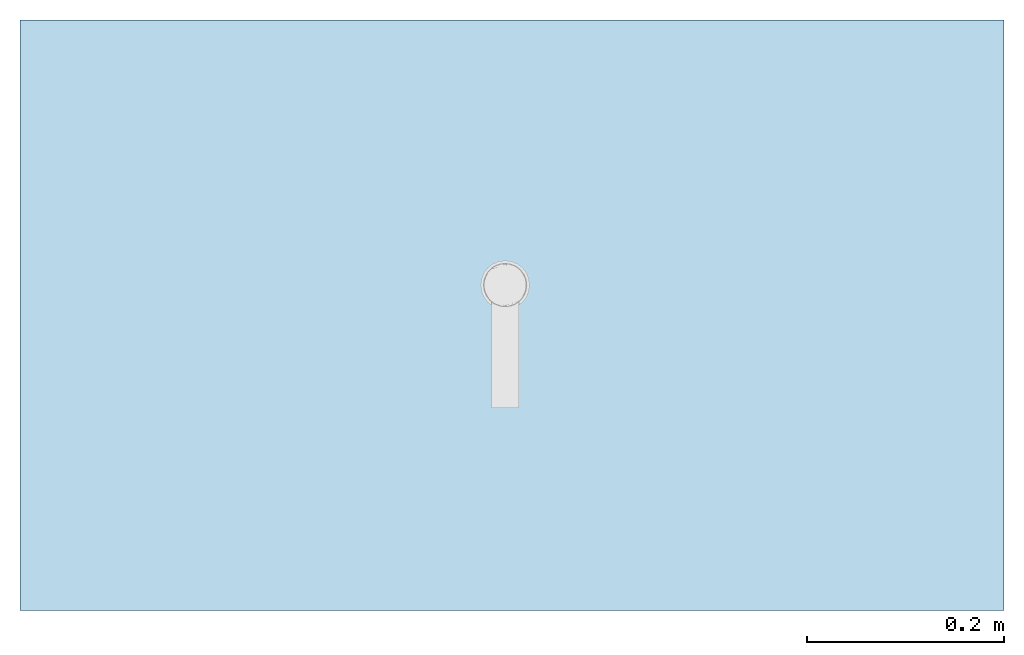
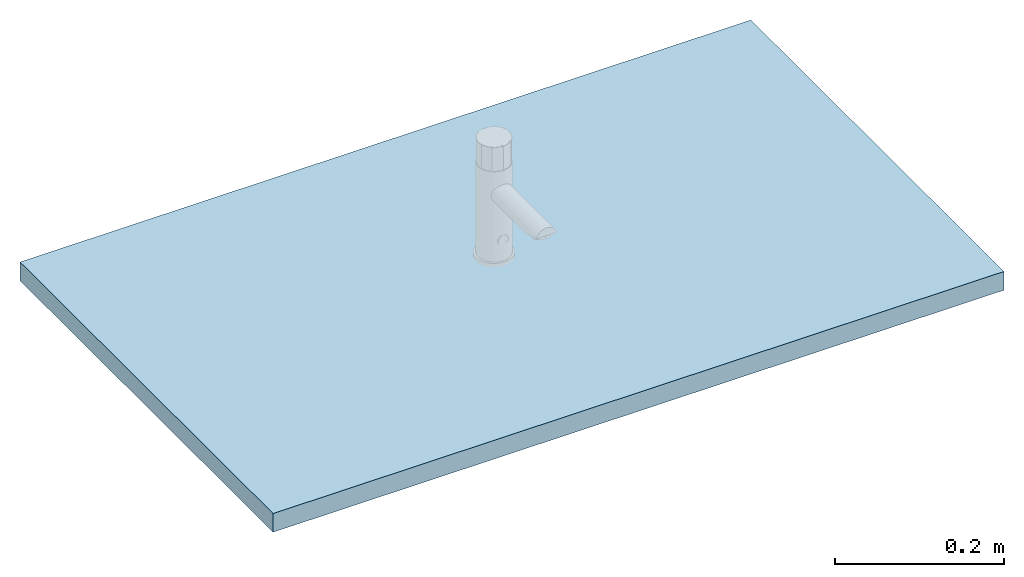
# One storey, incomplete: 1 slab.
"""IFC2X3 building model written with IfcOpenShell, lengths in millimetres."""

from ifc_helpers import new_model, entity, si_unit, converted_unit, derived_unit, direction, frame, frame_2d, origin, place, context, subcontext, project, spatial, rectangle, extrude, material, layer, layer_set, layer_usage, element, save


model = new_model("IFC2X3")

# Units and contexts
model_context = context("Model", 3, precision=1e-05, world=origin(), true_north=direction((2.0, 6.12303176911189e-17, 1.0)))
context_of_model = context(None, 3, precision=1e-05, world=origin(), true_north=direction((2.0, 6.12303176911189e-17, 1.0)))
body_context = subcontext(model_context, "Body", "Model", "MODEL_VIEW")
ifc_project = project(units=[si_unit("LENGTHUNIT", "METRE", prefix="MILLI"), si_unit("AREAUNIT", "SQUARE_METRE"), si_unit("VOLUMEUNIT", "CUBIC_METRE"), converted_unit("PLANEANGLEUNIT", "DEGREE", entity("IfcRatioMeasure", 0.0174532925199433), si_unit("PLANEANGLEUNIT", "RADIAN"), dimensions=[0, 0, 0, 0, 0, 0, 0]), si_unit("MASSUNIT", "GRAM", prefix="KILO"), si_unit("TIMEUNIT", "SECOND"), si_unit("THERMODYNAMICTEMPERATUREUNIT", "KELVIN"), derived_unit("THERMALTRANSMITTANCEUNIT", [(si_unit("MASSUNIT", "GRAM", prefix="KILO"), 1), (si_unit("THERMODYNAMICTEMPERATUREUNIT", "KELVIN"), -1), (si_unit("TIMEUNIT", "SECOND"), -3)]), derived_unit("VOLUMETRICFLOWRATEUNIT", [(si_unit("LENGTHUNIT", "METRE"), 3), (si_unit("TIMEUNIT", "SECOND"), -1)]), si_unit("POWERUNIT", "WATT")], contexts=[model_context, context_of_model])

# Site, building, storey
site_placement = place(None, origin())
site = spatial("IfcSite", under=ifc_project, at=site_placement, Name="Default", CompositionType="ELEMENT")
building_placement = place(site_placement, origin())
building = spatial("IfcBuilding", under=site, at=building_placement, CompositionType="ELEMENT")
storey_placement = place(building_placement, origin())
storey = spatial("IfcBuildingStorey", under=building, at=storey_placement, Name="Level 1", CompositionType="ELEMENT", Elevation=0.0)

# Slab
ifc_material = material(Name="<Unnamed>")
ifc_layer = layer(ifc_material, 27.0)
ifc_layer_set = layer_set([ifc_layer], Name="Floor:Counter")
ifc_layer_usage = layer_usage(ifc_layer_set, "AXIS3", "POSITIVE", 0.0)
slab_placement = place(storey_placement, origin())
element("IfcSlab", 1, at=slab_placement, inside=storey, material=ifc_layer_usage, Name="Floor:Counter:2279", ObjectType="Floor:Counter", PredefinedType="FLOOR", context=body_context, shape_type="SweptSolid", body=[
    extrude(rectangle(XDim=600.0, YDim=1000.0, at=frame_2d((-5.40012479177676e-13, 1.13686837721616e-13), x_axis=(1.0, 0.0))), frame((1448.35262689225, 3823.55298308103, 0.0), z_axis=(0.0, 0.0, -1.0), x_axis=(0.0, 1.0, 0.0)), (0.0, 0.0, 1.0), 27.0),
])

save(model, "model.ifc")
